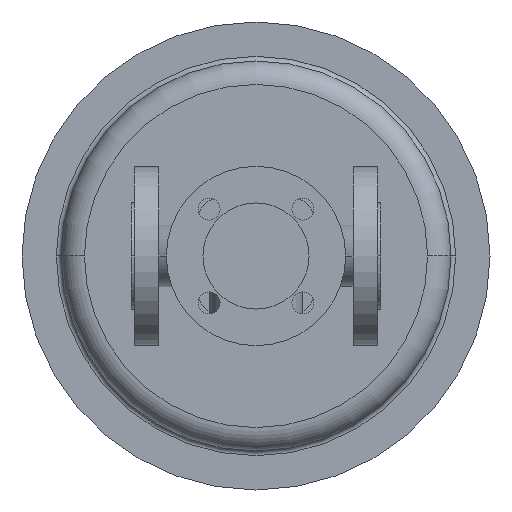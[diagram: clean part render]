
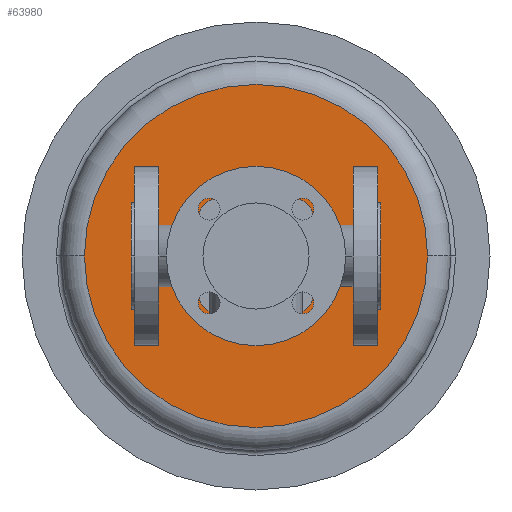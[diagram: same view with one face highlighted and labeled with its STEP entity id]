
A CAD part, front view. The second image highlights one B-rep face of the part: STEP entity #63980.
In plain terms, the highlighted planar face has unit normal (0, -1, 0).
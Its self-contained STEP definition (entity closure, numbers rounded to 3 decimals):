
#50410=CARTESIAN_POINT('',(-30.,545.,0.));
#50420=VERTEX_POINT('',#50410);
#50510=CARTESIAN_POINT('',(190.,545.,0.));
#50520=VERTEX_POINT('',#50510);
#50550=CARTESIAN_POINT('',(80.,545.,0.));
#50560=DIRECTION('',(0.,1.,0.));
#50570=DIRECTION('',(1.,0.,0.));
#50580=AXIS2_PLACEMENT_3D('',#50550,#50560,#50570);
#50590=CIRCLE('',#50580,110.);
#50600=EDGE_CURVE('',#50420,#50520,#50590,.T.);
#51180=CARTESIAN_POINT('',(145.,545.,0.));
#51190=VERTEX_POINT('',#51180);
#51220=CARTESIAN_POINT('',(130.,545.,0.));
#51230=DIRECTION('',(0.,1.,0.));
#51240=DIRECTION('',(1.,0.,0.));
#51250=AXIS2_PLACEMENT_3D('',#51220,#51230,#51240);
#51260=CIRCLE('',#51250,15.);
#51270=CARTESIAN_POINT('',(115.,545.,0.));
#51280=VERTEX_POINT('',#51270);
#51290=EDGE_CURVE('',#51190,#51280,#51260,.T.);
#51600=CARTESIAN_POINT('',(45.,545.,0.));
#51610=VERTEX_POINT('',#51600);
#51640=CARTESIAN_POINT('',(30.,545.,0.));
#51650=DIRECTION('',(0.,1.,0.));
#51660=DIRECTION('',(1.,0.,0.));
#51670=AXIS2_PLACEMENT_3D('',#51640,#51650,#51660);
#51680=CIRCLE('',#51670,15.);
#51690=CARTESIAN_POINT('',(15.,545.,0.));
#51700=VERTEX_POINT('',#51690);
#51710=EDGE_CURVE('',#51610,#51700,#51680,.T.);
#52000=CARTESIAN_POINT('',(98.45,545.,0.));
#52010=VERTEX_POINT('',#52000);
#52060=CARTESIAN_POINT('',(80.,545.,0.));
#52070=DIRECTION('',(0.,1.,0.));
#52080=DIRECTION('',(1.,0.,0.));
#52090=AXIS2_PLACEMENT_3D('',#52060,#52070,#52080);
#52100=CIRCLE('',#52090,18.45);
#52110=CARTESIAN_POINT('',(61.55,545.,0.));
#52120=VERTEX_POINT('',#52110);
#52130=EDGE_CURVE('',#52010,#52120,#52100,.T.);
#63730=CARTESIAN_POINT('',(135.,545.,0.));
#63740=DIRECTION('',(0.,-1.,0.));
#63750=DIRECTION('',(-1.,0.,0.));
#63760=AXIS2_PLACEMENT_3D('',#63730,#63740,#63750);
#63770=PLANE('',#63760);
#63780=ORIENTED_EDGE('',*,*,#52130,.T.);
#63790=EDGE_CURVE('',#52120,#52010,#52100,.T.);
#63800=ORIENTED_EDGE('',*,*,#63790,.T.);
#63810=EDGE_LOOP('',(#63800,#63780));
#63820=FACE_BOUND('',#63810,.T.);
#63830=ORIENTED_EDGE('',*,*,#51710,.T.);
#63840=EDGE_CURVE('',#51700,#51610,#51680,.T.);
#63850=ORIENTED_EDGE('',*,*,#63840,.T.);
#63860=EDGE_LOOP('',(#63850,#63830));
#63870=FACE_BOUND('',#63860,.T.);
#63880=ORIENTED_EDGE('',*,*,#51290,.T.);
#63890=EDGE_CURVE('',#51280,#51190,#51260,.T.);
#63900=ORIENTED_EDGE('',*,*,#63890,.T.);
#63910=EDGE_LOOP('',(#63900,#63880));
#63920=FACE_BOUND('',#63910,.T.);
#63930=EDGE_CURVE('',#50520,#50420,#50590,.T.);
#63940=ORIENTED_EDGE('',*,*,#63930,.F.);
#63950=ORIENTED_EDGE('',*,*,#50600,.F.);
#63960=EDGE_LOOP('',(#63950,#63940));
#63970=FACE_OUTER_BOUND('',#63960,.T.);
#63980=ADVANCED_FACE('',(#63820,#63870,#63920,#63970),#63770,.T.);
